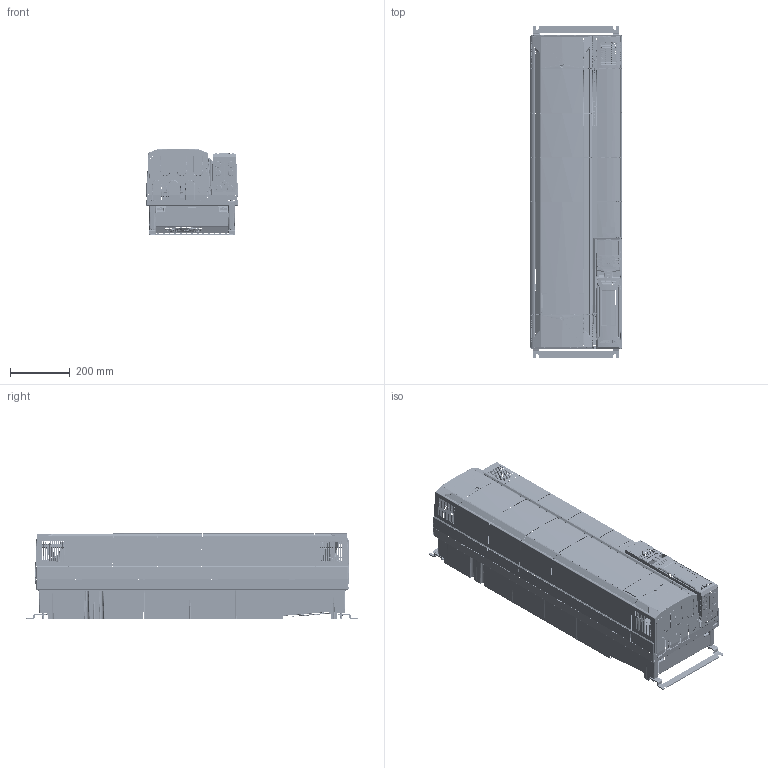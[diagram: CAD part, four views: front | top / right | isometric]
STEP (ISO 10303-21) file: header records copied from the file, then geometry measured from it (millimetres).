
FILE_DESCRIPTION((''),'2;1');
FILE_NAME('UNIM09_ASM','2016-03-17T',('Z94151'),(''),'PRO/ENGINEER BY PARAMETRIC TECHNOLOGY CORPORATION, 2011490','PRO/ENGINEER BY PARAMETRIC TECHNOLOGY CORPORATION, 2011490','');
FILE_SCHEMA(('CONFIG_CONTROL_DESIGN'));
Products named in the file (3): SIMPLE_09; 3875-0111_MLD-GT8_F11-23_TERMNL; UNIM09_ASM
Assembly tree (3 placements, depth 2):
  UNIM09_ASM
    SIMPLE_09
    3875-0111_MLD-GT8_F11-23_TERMNL  x2
Bounding box: 310.01 x 1107.61 x 290.2 mm (x, y, z)
Volume: 637002.3 mm3; surface area: 1836506.2 mm2
Topology: 2 solids, 601 shells, 5811 faces, 23703 edges, 18411 vertices
Faces by surface type: plane 2579, cylinder 1480, bspline 1050, torus 206, cone 205, extrusion 159, sphere 132
Entity records: 251663 total; most frequent: CARTESIAN_POINT 94731, ORIENTED_EDGE 24972, DIRECTION 21698, EDGE_CURVE 18463, VERTEX_POINT 15248, VECTOR 10574, LINE 10415, PRESENTATION_STYLE_ASSIGNMENT 6846
